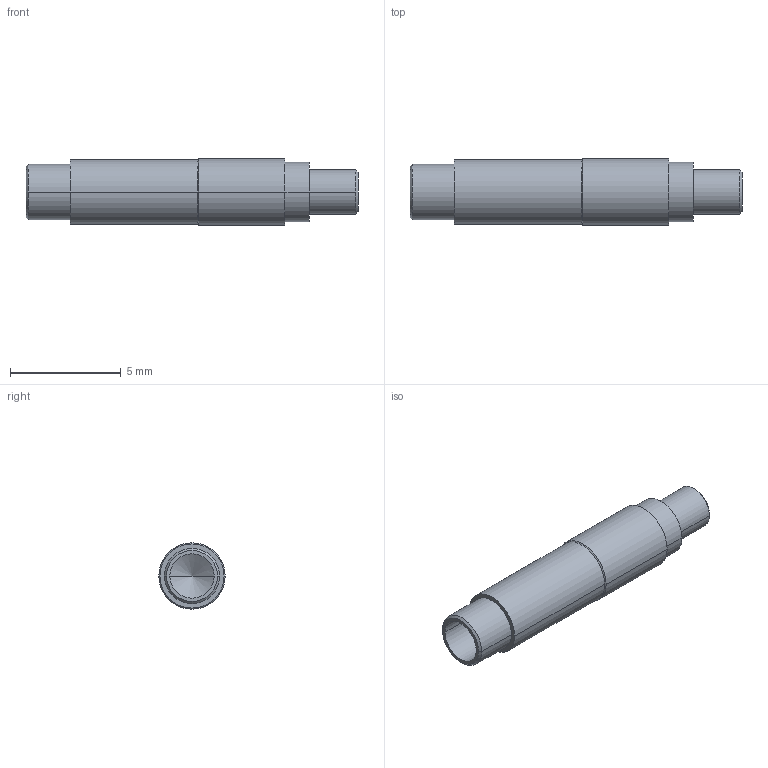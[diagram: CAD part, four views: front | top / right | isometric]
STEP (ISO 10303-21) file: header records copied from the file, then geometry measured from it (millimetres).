
FILE_DESCRIPTION(/* description */ ('(C) Elphel, Inc. 2011. Licensed under CERN OHL v.1.1 or later, see http://ohwr.org/cernohl'),/* implementation_level */ '2;1');
FILE_NAME(/* name */ '0353-19-97',/* time_stamp */ '2012-01-05T11:17:20-07:00',/* author */ (''),/* organization */ ('Elphel, Inc'),/* preprocessor_version */ 'ST-DEVELOPER v12',/* originating_system */ 'VariCAD 2010-3.03; kernel version (20100102)',/* authorisation */ '');
FILE_SCHEMA (('AUTOMOTIVE_DESIGN'));
Length unit declared in the file: millimetre
Products named in the file (1): Part
Bounding box: 15 x 3 x 3 mm (x, y, z)
Volume: 80.6 mm3; surface area: 158.7 mm2
Topology: 1 solids, 1 shells, 29 faces, 60 edges, 34 vertices
Faces by surface type: cylinder 14, cone 10, plane 5
Entity records: 769 total; most frequent: DIRECTION 150, CARTESIAN_POINT 121, ORIENTED_EDGE 112, AXIS2_PLACEMENT_3D 63, EDGE_CURVE 56, EDGE_LOOP 34, VERTEX_POINT 34, CIRCLE 32
